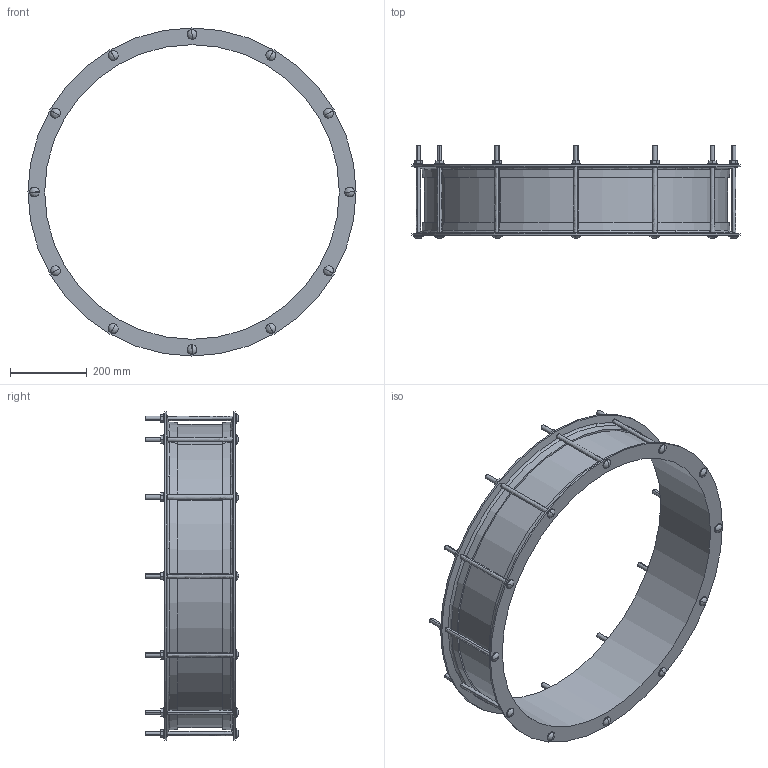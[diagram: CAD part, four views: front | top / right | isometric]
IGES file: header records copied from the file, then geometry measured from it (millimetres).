
Start section:  PTC IGES file: VJC_765.igs
Global section: file name: VJC_765.igs; native system: Creo Parametric by PTC Inc.; preprocessor: 2016130; author: mfairey; organization: Unknown; date: 20181206.115532; units: millimetre
Bounding box: 855.7 x 243.33 x 855.7 mm (x, y, z)
Surface area: 1369163.9 mm2 (no closed solid volume)
Topology: 0 solids, 0 shells, 252 faces, 1328 edges, 1304 vertices
Faces by surface type: revolution 140, bspline 112
